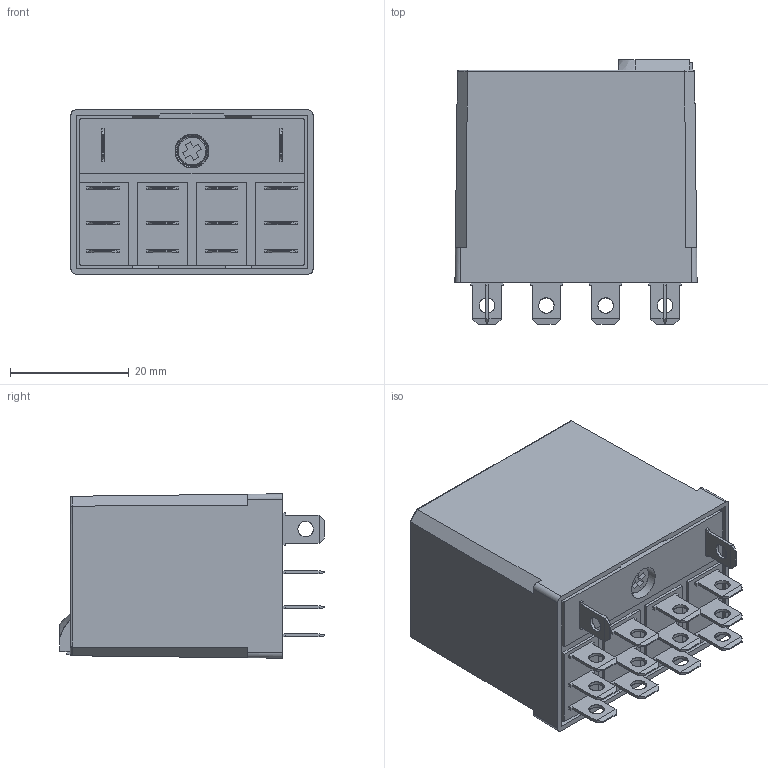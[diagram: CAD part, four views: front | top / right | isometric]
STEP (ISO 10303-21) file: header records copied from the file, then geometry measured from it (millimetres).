
FILE_DESCRIPTION(('STEP AP214'),'2;1');
FILE_NAME('5634_con pulsante-nota tecnica T-catalogo.stp','2010-11-18T13:46:33',(''),(''),'2007.1.106','THINKDESIGN','');
FILE_SCHEMA(('AUTOMOTIVE_DESIGN'));
Length unit declared in the file: millimetre
Products named in the file (1): None
Bounding box: 40.8 x 44.6 x 27.7 mm (x, y, z)
Surface area: 13099.7 mm2 (no closed solid volume)
Topology: 0 solids, 0 shells, 377 faces, 2243 edges, 2237 vertices
Faces by surface type: plane 304, bspline 40, cylinder 33
Full cylindrical faces by diameter (mm): 2 x1, 2.6 x14, 5 x1
Entity records: 22474 total; most frequent: CARTESIAN_POINT 6466, DIRECTION 2646, COMPOSITE_CURVE_SEGMENT 2215, TRIMMED_CURVE 1888, VECTOR 1866, LINE 1866, STYLED_ITEM 405, PRESENTATION_STYLE_ASSIGNMENT 405
